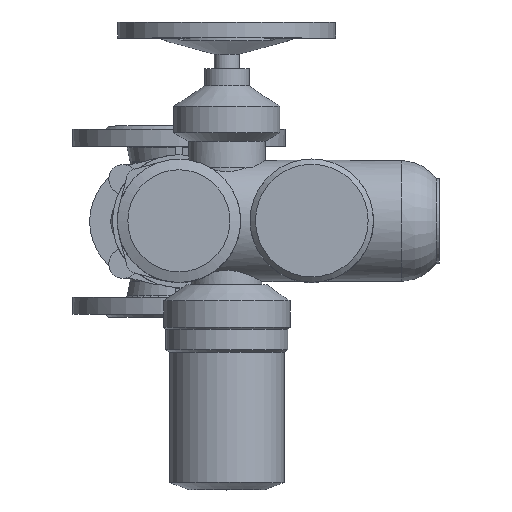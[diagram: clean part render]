
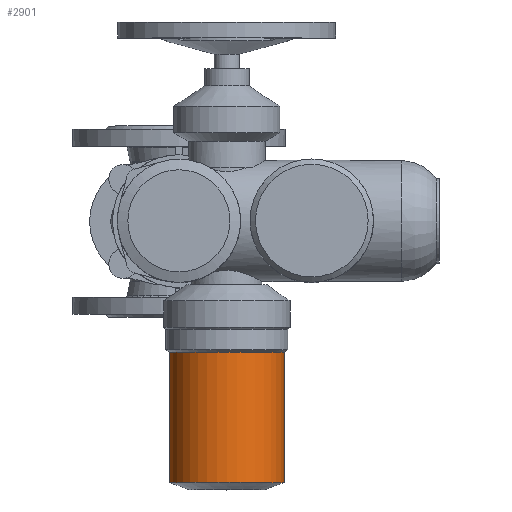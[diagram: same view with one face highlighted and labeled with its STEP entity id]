
A CAD part, top view. The second image highlights one B-rep face of the part: STEP entity #2901.
In plain terms, the highlighted cylindrical face has radius 54 mm (diameter 108 mm), a full revolution.
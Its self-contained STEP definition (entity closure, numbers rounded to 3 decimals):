
#2901=ADVANCED_FACE('',(#5704,#5706),#5708,.T.);
#5704=FACE_OUTER_BOUND('',#5705,.T.);
#5705=EDGE_LOOP('',(#7406));
#5706=FACE_OUTER_BOUND('',#5707,.T.);
#5707=EDGE_LOOP('',(#7407));
#5708=CYLINDRICAL_SURFACE('',#5709,54.);
#5709=AXIS2_PLACEMENT_3D('',#5710,#5711,#5712);
#5710=CARTESIAN_POINT('',(45.,-246.085,402.));
#5711=DIRECTION('',(0.,1.,0.));
#5712=DIRECTION('',(0.,0.,1.));
#7406=ORIENTED_EDGE('',*,*,#8270,.F.);
#7407=ORIENTED_EDGE('',*,*,#8286,.T.);
#8270=EDGE_CURVE('',#9632,#9632,#9633,.T.);
#8286=EDGE_CURVE('',#9664,#9664,#9665,.T.);
#9632=VERTEX_POINT('',#15374);
#9633=CIRCLE('',#15375,54.);
#9664=VERTEX_POINT('',#15448);
#9665=CIRCLE('',#15449,54.);
#15374=CARTESIAN_POINT('',(45.,-123.505,456.));
#15375=AXIS2_PLACEMENT_3D('',#15376,#15377,#15378);
#15376=CARTESIAN_POINT('',(45.,-123.505,402.));
#15377=DIRECTION('',(0.,1.,0.));
#15378=DIRECTION('',(0.,0.,1.));
#15448=CARTESIAN_POINT('',(45.,-246.085,456.));
#15449=AXIS2_PLACEMENT_3D('',#15450,#15451,#15452);
#15450=CARTESIAN_POINT('',(45.,-246.085,402.));
#15451=DIRECTION('',(0.,1.,0.));
#15452=DIRECTION('',(0.,0.,1.));
